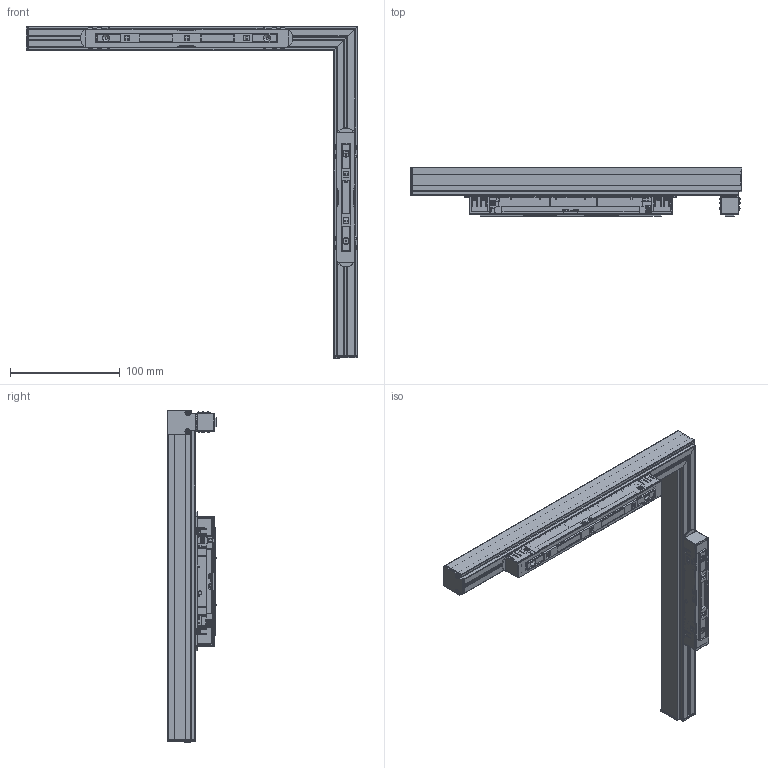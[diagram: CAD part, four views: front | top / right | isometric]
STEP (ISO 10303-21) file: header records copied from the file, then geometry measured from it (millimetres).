
FILE_DESCRIPTION (( 'STEP AP203' ), '1' );
FILE_NAME ('410234.STEP', '2025-04-02T03:19:44', ( '微软用户' ), ( '微软中国' ), 'SwSTEP 2.0', 'SolidWorks 2020', '' );
FILE_SCHEMA (( 'CONFIG_CONTROL_DESIGN' ));
Length unit declared in the file: millimetre
Products named in the file (43): 10-10-gk-2; MANIFOLD_SOLID_BREP_5137_2; 08-20-PC1_6; L平面转角泛光灯灯体-R-300; 沉头十字自攻螺丝M3X6; 滓嫖黑芛201010000508; MANIFOLD_SOLID_BREP_1149; 410234; MANIFOLD_SOLID_BREP_5138_2; MANIFOLD_SOLID_BREP_45179; Lす醱蛌褒滓嫖腑极-300; ｳﾁﾍｷﾊｮﾗﾖﾗﾔｹ･ﾂﾝﾋｿ M2.5X5; ｳﾁﾍｷﾊｮﾗﾖﾗﾔｹ･ﾂﾝﾋｿ M2.5X8; MANIFOLD_SOLID_BREP_1150; MANIFOLD_SOLID_BREP_5139_2; MANIFOLD_SOLID_BREP_48041; L蛌褒棠柲嫖埭-L-300; 1_1; MANIFOLD_SOLID_BREP_1155; MANIFOLD_SOLID_BREP_5133_2; MANIFOLD_SOLID_BREP_5140_2; MANIFOLD_SOLID_BREP_50903; L蛌褒棠柲嫖埭-R-300; MANIFOLD_SOLID_BREP_1145; MANIFOLD_SOLID_BREP_1156; MANIFOLD_SOLID_BREP_5134_2; MANIFOLD_SOLID_BREP_41654; MANIFOLD_SOLID_BREP_53625; L蛌褒滓嫖醱欶-L-300; MANIFOLD_SOLID_BREP_1146; 10-07-WJ1; MANIFOLD_SOLID_BREP_5135_2; MANIFOLD_SOLID_BREP_41700; 08-22-W1_37_ASM_1; L蛌褒滓嫖醱欶-R-300; MANIFOLD_SOLID_BREP_1147; 10-08-G1_1; MANIFOLD_SOLID_BREP_5136_8; DK-1_0406A_14_59_ASM_1; L平面转角泛光灯灯体-L-300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
Assembly tree (49 placements, depth 4):
  410234
    Lす醱蛌褒滓嫖腑极-300
      L平面转角泛光灯灯体-L-300
      L平面转角泛光灯灯体-R-300
    L蛌褒棠柲嫖埭-L-300
    L蛌褒棠柲嫖埭-R-300
    L蛌褒滓嫖醱欶-L-300
    L蛌褒滓嫖醱欶-R-300
    黑芛掖蝶411130000064  x2
    滓嫖黑芛201010000508  x2
    ｳﾁﾍｷﾊｮﾗﾖﾗﾔｹ･ﾂﾝﾋｿ M2.5X8  x4
    1_1
      MANIFOLD_SOLID_BREP_5133_2
      MANIFOLD_SOLID_BREP_5134_2
      MANIFOLD_SOLID_BREP_5135_2
      MANIFOLD_SOLID_BREP_5136_8
      MANIFOLD_SOLID_BREP_5137_2
      MANIFOLD_SOLID_BREP_5138_2
      MANIFOLD_SOLID_BREP_5139_2
      MANIFOLD_SOLID_BREP_5140_2
      DK-1_0406A_14_59_ASM_1
        MANIFOLD_SOLID_BREP_41654
        MANIFOLD_SOLID_BREP_41700
      08-20-PC1_6
      08-22-W1_37_ASM_1
        MANIFOLD_SOLID_BREP_45179
        MANIFOLD_SOLID_BREP_48041
        MANIFOLD_SOLID_BREP_50903
        MANIFOLD_SOLID_BREP_53625
      03_X_T
      沉头十字自攻螺丝M3X6  x2
      ｳﾁﾍｷﾊｮﾗﾖﾗﾔｹ･ﾂﾝﾋｿ M2.5X5  x2
    10-10-gk-2
      MANIFOLD_SOLID_BREP_1145
      MANIFOLD_SOLID_BREP_1146
      MANIFOLD_SOLID_BREP_1147
      MANIFOLD_SOLID_BREP_1148
      MANIFOLD_SOLID_BREP_1149
      MANIFOLD_SOLID_BREP_1150
      MANIFOLD_SOLID_BREP_1155
      MANIFOLD_SOLID_BREP_1156
      10-07-WJ1
      10-08-G1_1
Bounding box: 302.2 x 44.61 x 302.2 mm (x, y, z)
Volume: 162098.5 mm3; surface area: 236411.7 mm2
Topology: 47 solids, 49 shells, 4943 faces, 13148 edges, 8583 vertices
Faces by surface type: plane 3437, cylinder 1032, bspline 236, cone 165, torus 73
Entity records: 169834 total; most frequent: CARTESIAN_POINT 48674, ORIENTED_EDGE 25514, DIRECTION 21697, EDGE_CURVE 12760, VECTOR 9587, LINE 9587, VERTEX_POINT 8347, AXIS2_PLACEMENT_3D 6055
